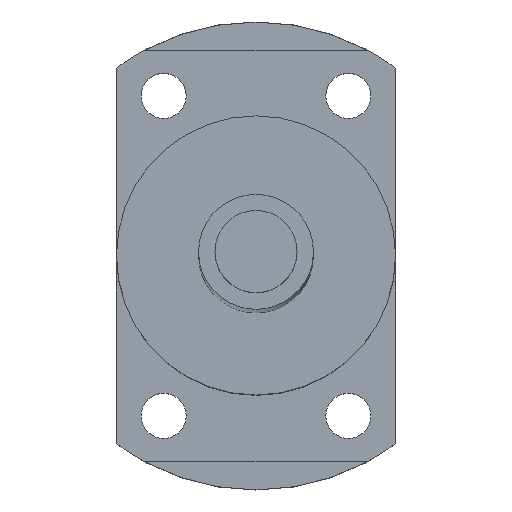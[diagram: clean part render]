
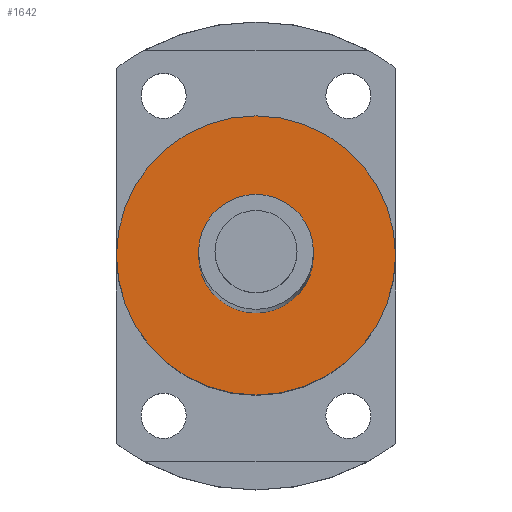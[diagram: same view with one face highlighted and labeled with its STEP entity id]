
A CAD part, top view. The second image highlights one B-rep face of the part: STEP entity #1642.
In plain terms, the highlighted planar face has unit normal (0, 0, 1).
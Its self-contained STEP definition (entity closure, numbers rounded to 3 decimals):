
#507=CARTESIAN_POINT('',(0.,0.,349.5));
#508=DIRECTION('',(0.,0.,1.));
#509=DIRECTION('',(1.,0.,0.));
#510=AXIS2_PLACEMENT_3D('',#507,#508,#509);
#512=CARTESIAN_POINT('',(0.,0.,349.5));
#513=DIRECTION('',(0.,0.,1.));
#514=DIRECTION('',(-1.,0.,0.));
#515=AXIS2_PLACEMENT_3D('',#512,#513,#514);
#517=CARTESIAN_POINT('',(0.,0.,349.5));
#518=DIRECTION('',(0.,0.,1.));
#519=DIRECTION('',(1.,0.,0.));
#520=AXIS2_PLACEMENT_3D('',#517,#518,#519);
#522=CARTESIAN_POINT('',(0.,0.,349.5));
#523=DIRECTION('',(0.,0.,1.));
#524=DIRECTION('',(-1.,0.,0.));
#525=AXIS2_PLACEMENT_3D('',#522,#523,#524);
#749=CARTESIAN_POINT('',(17.,0.,349.5));
#750=CARTESIAN_POINT('',(-17.,0.,349.5));
#751=VERTEX_POINT('',#749);
#752=VERTEX_POINT('',#750);
#761=CARTESIAN_POINT('',(7.,0.,349.5));
#762=CARTESIAN_POINT('',(-7.,0.,349.5));
#763=VERTEX_POINT('',#761);
#764=VERTEX_POINT('',#762);
#1627=CARTESIAN_POINT('',(0.,0.,349.5));
#1628=DIRECTION('',(0.,0.,1.));
#1629=DIRECTION('',(1.,0.,0.));
#1630=AXIS2_PLACEMENT_3D('',#1627,#1628,#1629);
#1631=PLANE('',#1630);
#1632=ORIENTED_EDGE('',*,*,#1607,.F.);
#1633=ORIENTED_EDGE('',*,*,#1621,.F.);
#1634=EDGE_LOOP('',(#1632,#1633));
#1635=FACE_OUTER_BOUND('',#1634,.F.);
#1637=ORIENTED_EDGE('',*,*,#1636,.T.);
#1639=ORIENTED_EDGE('',*,*,#1638,.T.);
#1640=EDGE_LOOP('',(#1637,#1639));
#1641=FACE_BOUND('',#1640,.F.);
#1642=ADVANCED_FACE('',(#1635,#1641),#1631,.T.);
#511=CIRCLE('',#510,17.);
#516=CIRCLE('',#515,17.);
#521=CIRCLE('',#520,7.);
#526=CIRCLE('',#525,7.);
#1607=EDGE_CURVE('',#751,#752,#511,.T.);
#1621=EDGE_CURVE('',#752,#751,#516,.T.);
#1636=EDGE_CURVE('',#763,#764,#521,.T.);
#1638=EDGE_CURVE('',#764,#763,#526,.T.);
